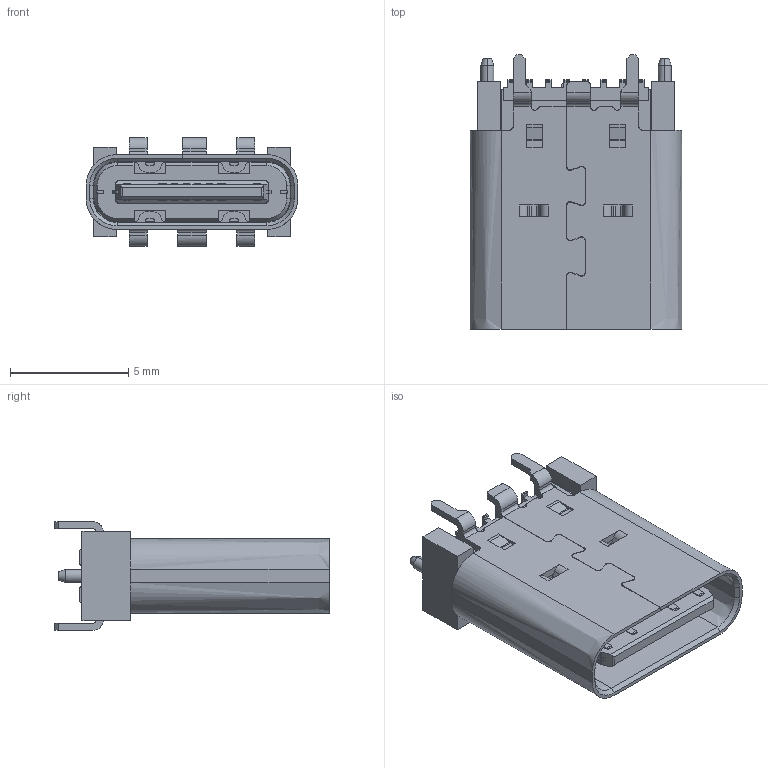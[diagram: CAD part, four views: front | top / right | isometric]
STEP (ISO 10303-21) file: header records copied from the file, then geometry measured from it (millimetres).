
FILE_DESCRIPTION (( 'STEP AP203' ), '1' );
FILE_NAME ('GT-USB-7051A.STEP', '2023-04-25T02:29:29', ( '' ), ( '' ), 'SwSTEP 2.0', 'SolidWorks 2023', '' );
FILE_SCHEMA (( 'CONFIG_CONTROL_DESIGN' ));
Products named in the file (1): GT-USB-7051A
Bounding box: 8.94 x 11.6 x 4.6 mm (x, y, z)
Surface area: 1302.5 mm2 (no closed solid volume)
Topology: 0 solids, 409 shells, 2445 faces, 10127 edges, 7603 vertices
Faces by surface type: bspline 2285, plane 160
Entity records: 102104 total; most frequent: CARTESIAN_POINT 47873, ORIENTED_EDGE 15538, EDGE_CURVE 10159, B_SPLINE_CURVE_WITH_KNOTS 8874, VERTEX_POINT 7627, EDGE_LOOP 2604, FACE_OUTER_BOUND 2445, ADVANCED_FACE 2439
